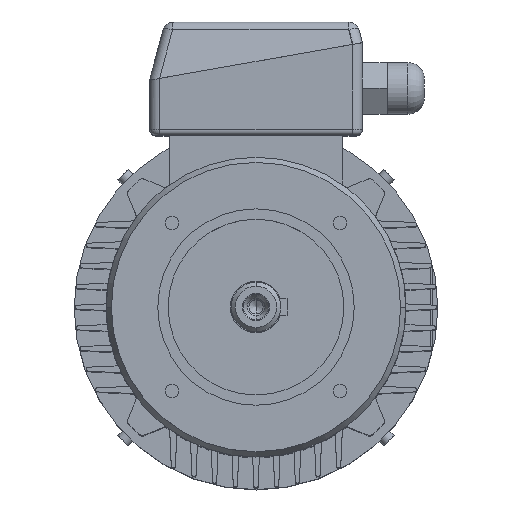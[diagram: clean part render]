
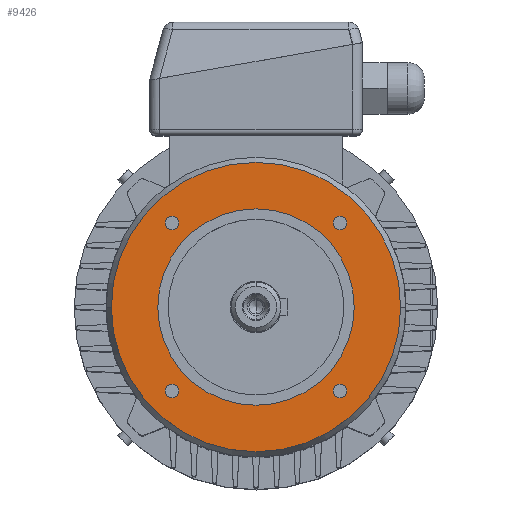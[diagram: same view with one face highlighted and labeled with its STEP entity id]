
A CAD part, top view. The second image highlights one B-rep face of the part: STEP entity #9426.
In plain terms, the highlighted planar face has unit normal (0, 0, 1).
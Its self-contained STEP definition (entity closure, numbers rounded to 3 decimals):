
#5 = EDGE_CURVE ( 'NONE', #7511, #7275, #9216, .T. ) ;
#9 = CARTESIAN_POINT ( 'NONE',  ( 0., 70., 40. ) ) ;
#114 = CIRCLE ( 'NONE', #115, 70. ) ;
#115 = AXIS2_PLACEMENT_3D ( 'NONE', #116, #117, #118 ) ;
#116 = CARTESIAN_POINT ( 'NONE',  ( 0., 0., 40. ) ) ;
#117 = DIRECTION ( 'NONE',  ( 0., 0., -1. ) ) ;
#118 = DIRECTION ( 'NONE',  ( 0., 1., 0. ) ) ;
#161 = EDGE_LOOP ( 'NONE', ( #11276, #10307 ) ) ;
#409 = ORIENTED_EDGE ( 'NONE', *, *, #5, .T. ) ;
#430 = ORIENTED_EDGE ( 'NONE', *, *, #1611, .F. ) ;
#586 = CARTESIAN_POINT ( 'NONE',  ( -37.409, 40.659, 40. ) ) ;
#731 = CIRCLE ( 'NONE', #732, 3.25 ) ;
#732 = AXIS2_PLACEMENT_3D ( 'NONE', #733, #734, #735 ) ;
#733 = CARTESIAN_POINT ( 'NONE',  ( -40.659, 40.659, 40. ) ) ;
#734 = DIRECTION ( 'NONE',  ( 0., 0., 1. ) ) ;
#735 = DIRECTION ( 'NONE',  ( 1., 0., 0. ) ) ;
#958 = ORIENTED_EDGE ( 'NONE', *, *, #7316, .T. ) ;
#975 = EDGE_CURVE ( 'NONE', #1359, #2569, #9536, .T. ) ;
#1139 = CARTESIAN_POINT ( 'NONE',  ( 37.409, 40.659, 40. ) ) ;
#1359 = VERTEX_POINT ( 'NONE', #9756 ) ;
#1370 = CARTESIAN_POINT ( 'NONE',  ( 43.909, 40.659, 40. ) ) ;
#1382 = ORIENTED_EDGE ( 'NONE', *, *, #975, .F. ) ;
#1438 = FACE_BOUND ( 'NONE', #2069, .T. ) ;
#1439 = FACE_BOUND ( 'NONE', #1949, .T. ) ;
#1440 = FACE_BOUND ( 'NONE', #161, .T. ) ;
#1441 = FACE_BOUND ( 'NONE', #10041, .T. ) ;
#1442 = FACE_BOUND ( 'NONE', #1537, .T. ) ;
#1443 = FACE_OUTER_BOUND ( 'NONE', #11416, .T. ) ;
#1448 = PLANE ( 'NONE',  #1449 ) ;
#1449 = AXIS2_PLACEMENT_3D ( 'NONE', #1450, #1451, #1452 ) ;
#1450 = CARTESIAN_POINT ( 'NONE',  ( 0., 70., 40. ) ) ;
#1451 = DIRECTION ( 'NONE',  ( 0., 0., 1. ) ) ;
#1452 = DIRECTION ( 'NONE',  ( 0., -1., 0. ) ) ;
#1457 = CIRCLE ( 'NONE', #1458, 3.25 ) ;
#1458 = AXIS2_PLACEMENT_3D ( 'NONE', #1459, #1460, #1461 ) ;
#1459 = CARTESIAN_POINT ( 'NONE',  ( 40.659, 40.659, 40. ) ) ;
#1460 = DIRECTION ( 'NONE',  ( 0., 0., 1. ) ) ;
#1461 = DIRECTION ( 'NONE',  ( 1., 0., 0. ) ) ;
#1518 = CARTESIAN_POINT ( 'NONE',  ( -43.909, 40.659, 40. ) ) ;
#1537 = EDGE_LOOP ( 'NONE', ( #958, #409 ) ) ;
#1611 = EDGE_CURVE ( 'NONE', #2569, #1359, #9897, .T. ) ;
#1784 = ORIENTED_EDGE ( 'NONE', *, *, #7063, .F. ) ;
#1944 = CIRCLE ( 'NONE', #1945, 70. ) ;
#1945 = AXIS2_PLACEMENT_3D ( 'NONE', #1950, #1951, #1952 ) ;
#1949 = EDGE_LOOP ( 'NONE', ( #1382, #430 ) ) ;
#1950 = CARTESIAN_POINT ( 'NONE',  ( 0., 0., 40. ) ) ;
#1951 = DIRECTION ( 'NONE',  ( 0., 0., -1. ) ) ;
#1952 = DIRECTION ( 'NONE',  ( 0., 1., 0. ) ) ;
#2069 = EDGE_LOOP ( 'NONE', ( #3181, #2204 ) ) ;
#2204 = ORIENTED_EDGE ( 'NONE', *, *, #6877, .F. ) ;
#2350 = EDGE_CURVE ( 'NONE', #9349, #9195, #10195, .T. ) ;
#2352 = CARTESIAN_POINT ( 'NONE',  ( 0., 47.5, 40. ) ) ;
#2515 = CIRCLE ( 'NONE', #2516, 47.5 ) ;
#2516 = AXIS2_PLACEMENT_3D ( 'NONE', #2517, #2518, #2519 ) ;
#2517 = CARTESIAN_POINT ( 'NONE',  ( 0., 0., 40. ) ) ;
#2518 = DIRECTION ( 'NONE',  ( 0., 0., -1. ) ) ;
#2519 = DIRECTION ( 'NONE',  ( 0., 1., 0. ) ) ;
#2569 = VERTEX_POINT ( 'NONE', #10312 ) ;
#2655 = CIRCLE ( 'NONE', #2656, 3.25 ) ;
#2656 = AXIS2_PLACEMENT_3D ( 'NONE', #2657, #2658, #2659 ) ;
#2657 = CARTESIAN_POINT ( 'NONE',  ( 40.659, -40.659, 40. ) ) ;
#2658 = DIRECTION ( 'NONE',  ( 0., 0., 1. ) ) ;
#2659 = DIRECTION ( 'NONE',  ( 1., 0., 0. ) ) ;
#2745 = ORIENTED_EDGE ( 'NONE', *, *, #2350, .F. ) ;
#2768 = EDGE_CURVE ( 'NONE', #6828, #7077, #10392, .T. ) ;
#3181 = ORIENTED_EDGE ( 'NONE', *, *, #2768, .F. ) ;
#3300 = CARTESIAN_POINT ( 'NONE',  ( 0., -47.5, 40. ) ) ;
#3463 = VERTEX_POINT ( 'NONE', #10703 ) ;
#3724 = EDGE_CURVE ( 'NONE', #4881, #3463, #10825, .T. ) ;
#4881 = VERTEX_POINT ( 'NONE', #11350 ) ;
#5340 = VERTEX_POINT ( 'NONE', #11548 ) ;
#5592 = VERTEX_POINT ( 'NONE', #9 ) ;
#5836 = EDGE_CURVE ( 'NONE', #5592, #5340, #114, .T. ) ;
#6828 = VERTEX_POINT ( 'NONE', #586 ) ;
#6877 = EDGE_CURVE ( 'NONE', #7077, #6828, #731, .T. ) ;
#7063 = EDGE_CURVE ( 'NONE', #9195, #9349, #1457, .T. ) ;
#7077 = VERTEX_POINT ( 'NONE', #1518 ) ;
#7167 = EDGE_CURVE ( 'NONE', #5340, #5592, #1944, .T. ) ;
#7275 = VERTEX_POINT ( 'NONE', #2352 ) ;
#7316 = EDGE_CURVE ( 'NONE', #7275, #7511, #2515, .T. ) ;
#7511 = VERTEX_POINT ( 'NONE', #3300 ) ;
#9195 = VERTEX_POINT ( 'NONE', #1139 ) ;
#9216 = CIRCLE ( 'NONE', #9217, 47.5 ) ;
#9217 = AXIS2_PLACEMENT_3D ( 'NONE', #9218, #9219, #9220 ) ;
#9218 = CARTESIAN_POINT ( 'NONE',  ( 0., 0., 40. ) ) ;
#9219 = DIRECTION ( 'NONE',  ( 0., 0., -1. ) ) ;
#9220 = DIRECTION ( 'NONE',  ( 0., 1., 0. ) ) ;
#9349 = VERTEX_POINT ( 'NONE', #1370 ) ;
#9426 = ADVANCED_FACE ( 'NONE', ( #1438, #1439, #1440, #1441, #1442, #1443 ), #1448, .T. ) ;
#9536 = CIRCLE ( 'NONE', #9537, 3.25 ) ;
#9537 = AXIS2_PLACEMENT_3D ( 'NONE', #9538, #9539, #9540 ) ;
#9538 = CARTESIAN_POINT ( 'NONE',  ( -40.659, -40.659, 40. ) ) ;
#9539 = DIRECTION ( 'NONE',  ( 0., 0., 1. ) ) ;
#9540 = DIRECTION ( 'NONE',  ( 1., 0., 0. ) ) ;
#9756 = CARTESIAN_POINT ( 'NONE',  ( -37.409, -40.659, 40. ) ) ;
#9897 = CIRCLE ( 'NONE', #9898, 3.25 ) ;
#9898 = AXIS2_PLACEMENT_3D ( 'NONE', #9899, #9900, #9901 ) ;
#9899 = CARTESIAN_POINT ( 'NONE',  ( -40.659, -40.659, 40. ) ) ;
#9900 = DIRECTION ( 'NONE',  ( 0., 0., 1. ) ) ;
#9901 = DIRECTION ( 'NONE',  ( 1., 0., 0. ) ) ;
#10041 = EDGE_LOOP ( 'NONE', ( #2745, #1784 ) ) ;
#10195 = CIRCLE ( 'NONE', #10196, 3.25 ) ;
#10196 = AXIS2_PLACEMENT_3D ( 'NONE', #10197, #10198, #10199 ) ;
#10197 = CARTESIAN_POINT ( 'NONE',  ( 40.659, 40.659, 40. ) ) ;
#10198 = DIRECTION ( 'NONE',  ( 0., 0., 1. ) ) ;
#10199 = DIRECTION ( 'NONE',  ( 1., 0., 0. ) ) ;
#10288 = ORIENTED_EDGE ( 'NONE', *, *, #7167, .F. ) ;
#10307 = ORIENTED_EDGE ( 'NONE', *, *, #3724, .F. ) ;
#10312 = CARTESIAN_POINT ( 'NONE',  ( -43.909, -40.659, 40. ) ) ;
#10392 = CIRCLE ( 'NONE', #10393, 3.25 ) ;
#10393 = AXIS2_PLACEMENT_3D ( 'NONE', #10394, #10395, #10396 ) ;
#10394 = CARTESIAN_POINT ( 'NONE',  ( -40.659, 40.659, 40. ) ) ;
#10395 = DIRECTION ( 'NONE',  ( 0., 0., 1. ) ) ;
#10396 = DIRECTION ( 'NONE',  ( 1., 0., 0. ) ) ;
#10703 = CARTESIAN_POINT ( 'NONE',  ( 43.909, -40.659, 40. ) ) ;
#10825 = CIRCLE ( 'NONE', #10826, 3.25 ) ;
#10826 = AXIS2_PLACEMENT_3D ( 'NONE', #10827, #10828, #10829 ) ;
#10827 = CARTESIAN_POINT ( 'NONE',  ( 40.659, -40.659, 40. ) ) ;
#10828 = DIRECTION ( 'NONE',  ( 0., 0., 1. ) ) ;
#10829 = DIRECTION ( 'NONE',  ( 1., 0., 0. ) ) ;
#10858 = ORIENTED_EDGE ( 'NONE', *, *, #5836, .F. ) ;
#10878 = EDGE_CURVE ( 'NONE', #3463, #4881, #2655, .T. ) ;
#11276 = ORIENTED_EDGE ( 'NONE', *, *, #10878, .F. ) ;
#11350 = CARTESIAN_POINT ( 'NONE',  ( 37.409, -40.659, 40. ) ) ;
#11416 = EDGE_LOOP ( 'NONE', ( #10858, #10288 ) ) ;
#11548 = CARTESIAN_POINT ( 'NONE',  ( 0., -70., 40. ) ) ;
